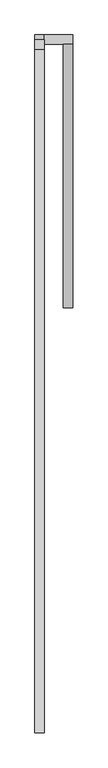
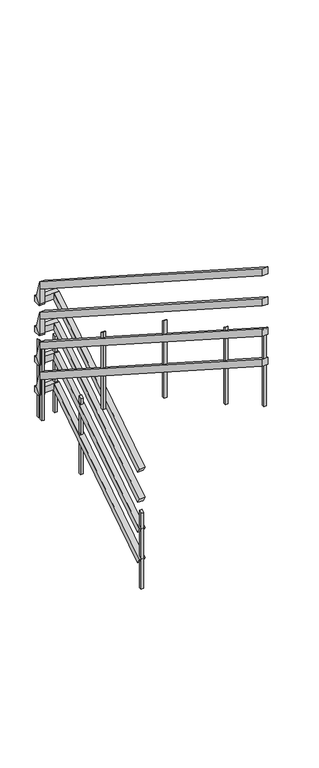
"""IFC4 building model written with IfcOpenShell, lengths in millimetres: railing geometry, RL780-금속재 난간."""

from ifc_helpers import new_model, si_unit, frame, origin, place, context, project, spatial, polyline, outline, extrude, faceted_brep, source, transform, mapped, element, save


def railing_3f690383(model_context):
    return source(origin(), model_context, "Body", "SolidModel", [
        faceted_brep([(1450.1569864, 3825.0979122, -2220.0), (1400.1569864, 3825.0979122, -2220.0), (1400.1569864, 3857.5433676, -2270.4707085), (1450.1569864, 3857.5433676, -2270.4707085), (1450.1569864, 5225.0979122, -1320.0), (1450.1569864, 5257.5433676, -1370.4707085), (1400.1569864, 5257.5433676, -1370.4707085), (1400.1569864, 5225.0979122, -1320.0)], [[[0, 1, 2, 3]], [[4, 5, 6, 7]], [[1, 0, 4, 7]], [[2, 1, 7, 6]], [[3, 2, 6, 5]], [[0, 3, 5, 4]]]),
        faceted_brep([(1450.1569864, 3825.0979122, -2520.0), (1400.1569864, 3825.0979122, -2520.0), (1400.1569864, 3857.5433676, -2570.4707085), (1450.1569864, 3857.5433676, -2570.4707085), (1450.1569864, 5225.0979122, -1620.0), (1450.1569864, 5257.5433676, -1670.4707085), (1400.1569864, 5257.5433676, -1670.4707085), (1400.1569864, 5225.0979122, -1620.0)], [[[0, 1, 2, 3]], [[4, 5, 6, 7]], [[1, 0, 4, 7]], [[2, 1, 7, 6]], [[3, 2, 6, 5]], [[0, 3, 5, 4]]]),
        faceted_brep([(1450.1569864, 3825.0979122, -2820.0), (1400.1569864, 3825.0979122, -2820.0), (1400.1569864, 3857.5433676, -2870.4707085), (1450.1569864, 3857.5433676, -2870.4707085), (1450.1569864, 5225.0979122, -1920.0), (1450.1569864, 5257.5433676, -1970.4707085), (1400.1569864, 5257.5433676, -1970.4707085), (1400.1569864, 5225.0979122, -1920.0)], [[[0, 1, 2, 3]], [[4, 5, 6, 7]], [[1, 0, 4, 7]], [[2, 1, 7, 6]], [[3, 2, 6, 5]], [[0, 3, 5, 4]]]),
        faceted_brep([(1450.1569864, 3825.0979122, -3120.0), (1400.1569864, 3825.0979122, -3120.0), (1400.1569864, 3857.5433676, -3170.4707085), (1450.1569864, 3857.5433676, -3170.4707085), (1450.1569864, 5225.0979122, -2220.0), (1450.1569864, 5257.5433676, -2270.4707085), (1400.1569864, 5257.5433676, -2270.4707085), (1400.1569864, 5225.0979122, -2220.0)], [[[0, 1, 2, 3]], [[4, 5, 6, 7]], [[1, 0, 4, 7]], [[2, 1, 7, 6]], [[3, 2, 6, 5]], [[0, 3, 5, 4]]]),
        faceted_brep([(1450.1569864, 5275.4979122, -1320.0), (1450.1569864, 5225.4979122, -1320.0), (1450.1569864, 5225.4979122, -1380.0), (1450.1569864, 5275.4979122, -1380.0), (1299.3569864, 5275.4979122, -1320.0), (1299.3569864, 5275.4979122, -1380.0), (1299.3569864, 5225.4979122, -1380.0), (1299.3569864, 5225.4979122, -1320.0)], [[[0, 1, 2, 3]], [[4, 5, 6, 7]], [[1, 0, 4, 7]], [[2, 1, 7, 6]], [[3, 2, 6, 5]], [[0, 3, 5, 4]]]),
        faceted_brep([(1249.3569864, 5275.4979122, -1320.0), (1299.3569864, 5275.4979122, -1320.0), (1299.3569864, 5275.4979122, -1380.0), (1249.3569864, 5275.4979122, -1380.0), (1249.3569864, 5250.4979122, -1320.0), (1299.3569864, 5250.4979122, -1320.0), (1299.3569864, 5205.0141177, -1380.0), (1249.3569864, 5200.0, -1140.0), (1249.3569864, 5200.0, -1362.1271585), (1299.3569864, 5200.0, -1362.1271585), (1299.3569864, 5200.0, -1140.0), (1249.3569864, 5205.0141177, -1380.0)], [[[0, 1, 2, 3]], [[1, 0, 4, 5]], [[2, 1, 5, 6]], [[7, 8, 9, 10]], [[5, 4, 7, 10]], [[6, 5, 10, 9]], [[3, 2, 6, 11]], [[0, 3, 11, 4]], [[11, 6, 9, 8]], [[4, 11, 8, 7]]]),
        faceted_brep([(1249.3569864, 5200.0, -1140.0), (1299.3569864, 5200.0, -1140.0), (1299.3569864, 5200.0, -1211.3285013), (1249.3569864, 5200.0, -1211.3285013), (1249.3569864, 1560.0, 1200.0), (1249.3569864, 1560.0, 1128.6714987), (1299.3569864, 1560.0, 1128.6714987), (1299.3569864, 1560.0, 1200.0)], [[[0, 1, 2, 3]], [[4, 5, 6, 7]], [[1, 0, 4, 7]], [[2, 1, 7, 6]], [[3, 2, 6, 5]], [[0, 3, 5, 4]]]),
        faceted_brep([(1450.1569864, 5275.4979122, -1620.0), (1450.1569864, 5225.4979122, -1620.0), (1450.1569864, 5225.4979122, -1680.0), (1450.1569864, 5275.4979122, -1680.0), (1299.3569864, 5275.4979122, -1620.0), (1299.3569864, 5275.4979122, -1680.0), (1299.3569864, 5225.4979122, -1680.0), (1299.3569864, 5225.4979122, -1620.0)], [[[0, 1, 2, 3]], [[4, 5, 6, 7]], [[1, 0, 4, 7]], [[2, 1, 7, 6]], [[3, 2, 6, 5]], [[0, 3, 5, 4]]]),
        faceted_brep([(1249.3569864, 5275.4979122, -1620.0), (1299.3569864, 5275.4979122, -1620.0), (1299.3569864, 5275.4979122, -1680.0), (1249.3569864, 5275.4979122, -1680.0), (1249.3569864, 5250.4979122, -1620.0), (1299.3569864, 5250.4979122, -1620.0), (1299.3569864, 5205.0141177, -1680.0), (1249.3569864, 5200.0, -1440.0), (1249.3569864, 5200.0, -1662.1271585), (1299.3569864, 5200.0, -1662.1271585), (1299.3569864, 5200.0, -1440.0), (1249.3569864, 5205.0141177, -1680.0)], [[[0, 1, 2, 3]], [[1, 0, 4, 5]], [[2, 1, 5, 6]], [[7, 8, 9, 10]], [[5, 4, 7, 10]], [[6, 5, 10, 9]], [[3, 2, 6, 11]], [[0, 3, 11, 4]], [[11, 6, 9, 8]], [[4, 11, 8, 7]]]),
        faceted_brep([(1249.3569864, 5200.0, -1440.0), (1299.3569864, 5200.0, -1440.0), (1299.3569864, 5200.0, -1511.3285013), (1249.3569864, 5200.0, -1511.3285013), (1249.3569864, 1560.0, 900.0), (1249.3569864, 1560.0, 828.6714987), (1299.3569864, 1560.0, 828.6714987), (1299.3569864, 1560.0, 900.0)], [[[0, 1, 2, 3]], [[4, 5, 6, 7]], [[1, 0, 4, 7]], [[2, 1, 7, 6]], [[3, 2, 6, 5]], [[0, 3, 5, 4]]]),
        faceted_brep([(1450.1569864, 5275.4979122, -1920.0), (1450.1569864, 5225.4979122, -1920.0), (1450.1569864, 5225.4979122, -1980.0), (1450.1569864, 5275.4979122, -1980.0), (1299.3569864, 5275.4979122, -1920.0), (1299.3569864, 5275.4979122, -1980.0), (1299.3569864, 5225.4979122, -1980.0), (1299.3569864, 5225.4979122, -1920.0)], [[[0, 1, 2, 3]], [[4, 5, 6, 7]], [[1, 0, 4, 7]], [[2, 1, 7, 6]], [[3, 2, 6, 5]], [[0, 3, 5, 4]]]),
        faceted_brep([(1249.3569864, 5275.4979122, -1920.0), (1299.3569864, 5275.4979122, -1920.0), (1299.3569864, 5275.4979122, -1980.0), (1249.3569864, 5275.4979122, -1980.0), (1249.3569864, 5250.4979122, -1920.0), (1299.3569864, 5250.4979122, -1920.0), (1299.3569864, 5205.0141177, -1980.0), (1249.3569864, 5200.0, -1740.0), (1249.3569864, 5200.0, -1962.1271585), (1299.3569864, 5200.0, -1962.1271585), (1299.3569864, 5200.0, -1740.0), (1249.3569864, 5205.0141177, -1980.0)], [[[0, 1, 2, 3]], [[1, 0, 4, 5]], [[2, 1, 5, 6]], [[7, 8, 9, 10]], [[5, 4, 7, 10]], [[6, 5, 10, 9]], [[3, 2, 6, 11]], [[0, 3, 11, 4]], [[11, 6, 9, 8]], [[4, 11, 8, 7]]]),
        faceted_brep([(1249.3569864, 5200.0, -1740.0), (1299.3569864, 5200.0, -1740.0), (1299.3569864, 5200.0, -1811.3285013), (1249.3569864, 5200.0, -1811.3285013), (1249.3569864, 1560.0, 600.0), (1249.3569864, 1560.0, 528.6714987), (1299.3569864, 1560.0, 528.6714987), (1299.3569864, 1560.0, 600.0)], [[[0, 1, 2, 3]], [[4, 5, 6, 7]], [[1, 0, 4, 7]], [[2, 1, 7, 6]], [[3, 2, 6, 5]], [[0, 3, 5, 4]]]),
        faceted_brep([(1450.1569864, 5275.4979122, -2220.0), (1450.1569864, 5225.4979122, -2220.0), (1450.1569864, 5225.4979122, -2280.0), (1450.1569864, 5275.4979122, -2280.0), (1299.3569864, 5275.4979122, -2220.0), (1299.3569864, 5275.4979122, -2280.0), (1299.3569864, 5225.4979122, -2280.0), (1299.3569864, 5225.4979122, -2220.0)], [[[0, 1, 2, 3]], [[4, 5, 6, 7]], [[1, 0, 4, 7]], [[2, 1, 7, 6]], [[3, 2, 6, 5]], [[0, 3, 5, 4]]]),
        faceted_brep([(1249.3569864, 5275.4979122, -2220.0), (1299.3569864, 5275.4979122, -2220.0), (1299.3569864, 5275.4979122, -2280.0), (1249.3569864, 5275.4979122, -2280.0), (1249.3569864, 5250.4979122, -2220.0), (1299.3569864, 5250.4979122, -2220.0), (1299.3569864, 5205.0141177, -2280.0), (1249.3569864, 5200.0, -2040.0), (1249.3569864, 5200.0, -2262.1271585), (1299.3569864, 5200.0, -2262.1271585), (1299.3569864, 5200.0, -2040.0), (1249.3569864, 5205.0141177, -2280.0)], [[[0, 1, 2, 3]], [[1, 0, 4, 5]], [[2, 1, 5, 6]], [[7, 8, 9, 10]], [[5, 4, 7, 10]], [[6, 5, 10, 9]], [[3, 2, 6, 11]], [[0, 3, 11, 4]], [[11, 6, 9, 8]], [[4, 11, 8, 7]]]),
        faceted_brep([(1249.3569864, 5200.0, -2040.0), (1299.3569864, 5200.0, -2040.0), (1299.3569864, 5200.0, -2111.3285013), (1249.3569864, 5200.0, -2111.3285013), (1249.3569864, 1560.0, 300.0), (1249.3569864, 1560.0, 228.6714987), (1299.3569864, 1560.0, 228.6714987), (1299.3569864, 1560.0, 300.0)], [[[0, 1, 2, 3]], [[4, 5, 6, 7]], [[1, 0, 4, 7]], [[2, 1, 7, 6]], [[3, 2, 6, 5]], [[0, 3, 5, 4]]]),
        extrude(outline(polyline([(2212.5, 214.04582), (2212.5, -540.0), (2187.5, -540.0), (2187.5, 229.95418), (2212.5, 214.04582)])), frame((1261.8569864, 0.0, 0.0), z_axis=(1.0, 0.0, 0.0), x_axis=(0.0, 1.0, 0.0)), (0.0, 0.0, 1.0), 25.0),
        extrude(outline(polyline([(3212.5, -325.95418), (3212.5, -1080.0), (3187.5, -1080.0), (3187.5, -310.04582), (3212.5, -325.95418)])), frame((1261.8569864, 0.0, 0.0), z_axis=(1.0, 0.0, 0.0), x_axis=(0.0, 1.0, 0.0)), (0.0, 0.0, 1.0), 25.0),
        extrude(outline(polyline([(4212.5, -1045.95418), (4212.5, -1800.0), (4187.5, -1800.0), (4187.5, -1030.04582), (4212.5, -1045.95418)])), frame((1261.8569864, 0.0, 0.0), z_axis=(1.0, 0.0, 0.0), x_axis=(0.0, 1.0, 0.0)), (0.0, 0.0, 1.0), 25.0),
        extrude(outline(polyline([(4837.5979122, -2110.04582), (4837.5979122, -2880.0), (4812.5979122, -2880.0), (4812.5979122, -2125.95418), (4837.5979122, -2110.04582)])), frame((1412.6569864, 0.0, 0.0), z_axis=(1.0, 0.0, 0.0), x_axis=(0.0, 1.0, 0.0)), (0.0, 0.0, 1.0), 25.0),
        extrude(outline(polyline([(5212.5, -1765.95418), (5212.5, -2520.0), (5187.5, -2520.0), (5187.5, -1750.04582), (5212.5, -1765.95418)])), frame((1261.8569864, 0.0, 0.0), z_axis=(1.0, 0.0, 0.0), x_axis=(0.0, 1.0, 0.0)), (0.0, 0.0, 1.0), 25.0),
        extrude(outline(polyline([(-1750.04582, 1261.8569864), (-2520.0, 1261.8569864), (-2520.0, 1286.8569864), (-1765.95418, 1286.8569864), (-1750.04582, 1261.8569864)])), frame((0.0, 5237.9979122, 0.0), z_axis=(0.0, 1.0, 0.0), x_axis=(0.0, 0.0, 1.0)), (0.0, 0.0, 1.0), 25.0),
        extrude(outline(polyline([(5262.9979122, -1750.04582), (5262.9979122, -2520.0), (5237.9979122, -2520.0), (5237.9979122, -1765.95418), (5262.9979122, -1750.04582)])), frame((1412.6569864, 0.0, 0.0), z_axis=(1.0, 0.0, 0.0), x_axis=(0.0, 1.0, 0.0)), (0.0, 0.0, 1.0), 25.0),
        extrude(outline(polyline([(1585.0, 574.04582), (1585.0, -180.0), (1560.0, -180.0), (1560.0, 589.95418), (1585.0, 574.04582)])), frame((1261.8569864, 0.0, 0.0), z_axis=(1.0, 0.0, 0.0), x_axis=(0.0, 1.0, 0.0)), (0.0, 0.0, 1.0), 25.0),
        extrude(outline(polyline([(3850.0979122, -2650.04582), (3850.0979122, -3420.0), (3825.0979122, -3420.0), (3825.0979122, -2665.95418), (3850.0979122, -2650.04582)])), frame((1412.6569864, 0.0, 0.0), z_axis=(1.0, 0.0, 0.0), x_axis=(0.0, 1.0, 0.0)), (0.0, 0.0, 1.0), 25.0),
    ])


if __name__ == "__main__":
    model = new_model("IFC4")
    model_context = context("Model", 3, world=origin())
    ifc_project = project(units=[si_unit("LENGTHUNIT", "METRE", prefix="MILLI")], contexts=[model_context])
    site = spatial("IfcSite", under=ifc_project)
    building = spatial("IfcBuilding", under=site)
    placement = place(None, origin())
    railing_shape = railing_3f690383(model_context)
    element("IfcRailing", 1, ObjectType="RL780-금속재 난간", at=placement, inside=building, context=model_context, shape_type="MappedRepresentation", body=[
        mapped(railing_shape, transform((0.0, 0.0, 0.0), x_axis=(1.0, 0.0, 0.0), y_axis=(0.0, 1.0, 0.0), z_axis=(0.0, 0.0, 1.0))),
    ])
    save(model, "model.ifc")
